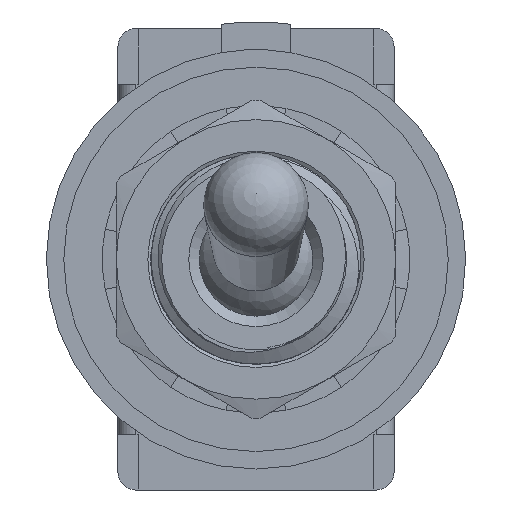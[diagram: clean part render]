
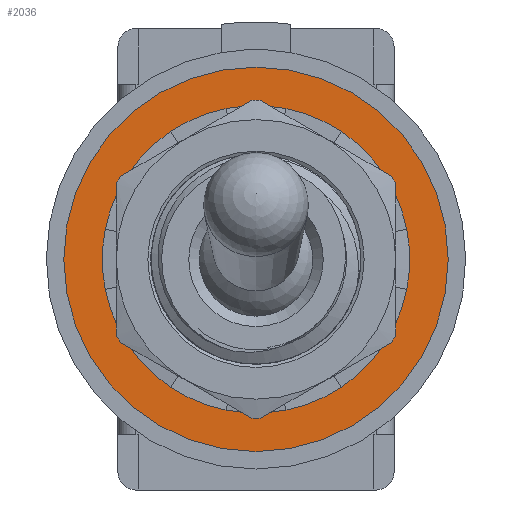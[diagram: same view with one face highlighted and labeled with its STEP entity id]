
A CAD part, front view. The second image highlights one B-rep face of the part: STEP entity #2036.
In plain terms, the highlighted planar face has unit normal (0, -1, 0).
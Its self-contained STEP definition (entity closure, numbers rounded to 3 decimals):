
#2036=ADVANCED_FACE('',(#21283,#21285),#21287,.T.);
#21283=FACE_BOUND('',#21284,.T.);
#21284=EDGE_LOOP('',(#38796));
#21285=FACE_BOUND('',#21286,.T.);
#21286=EDGE_LOOP('',(#38797,#38798,#38799,#38800,#38801,#38802,#38803,#38804,#38805,
#38806,#38807,#38808,#38809,#38810,#38811,#38812));
#21287=PLANE('',#21288);
#21288=AXIS2_PLACEMENT_3D('',#21289,#21290,#21291);
#21289=CARTESIAN_POINT('',(0.,-2.9,0.));
#21290=DIRECTION('',(0.,-1.,0.));
#21291=DIRECTION('',(0.,0.,-1.));
#38796=ORIENTED_EDGE('',*,*,#45188,.F.);
#38797=ORIENTED_EDGE('',*,*,#45189,.T.);
#38798=ORIENTED_EDGE('',*,*,#45166,.T.);
#38799=ORIENTED_EDGE('',*,*,#45190,.T.);
#38800=ORIENTED_EDGE('',*,*,#45169,.T.);
#38801=ORIENTED_EDGE('',*,*,#45191,.T.);
#38802=ORIENTED_EDGE('',*,*,#45172,.T.);
#38803=ORIENTED_EDGE('',*,*,#45192,.T.);
#38804=ORIENTED_EDGE('',*,*,#45175,.T.);
#38805=ORIENTED_EDGE('',*,*,#45193,.T.);
#38806=ORIENTED_EDGE('',*,*,#45178,.T.);
#38807=ORIENTED_EDGE('',*,*,#45194,.T.);
#38808=ORIENTED_EDGE('',*,*,#45181,.T.);
#38809=ORIENTED_EDGE('',*,*,#45195,.T.);
#38810=ORIENTED_EDGE('',*,*,#45184,.T.);
#38811=ORIENTED_EDGE('',*,*,#45196,.T.);
#38812=ORIENTED_EDGE('',*,*,#45187,.T.);
#45166=EDGE_CURVE('',#48832,#48834,#48836,.T.);
#45169=EDGE_CURVE('',#48837,#48839,#48841,.T.);
#45172=EDGE_CURVE('',#48842,#48844,#48846,.T.);
#45175=EDGE_CURVE('',#48847,#48849,#48851,.T.);
#45178=EDGE_CURVE('',#48852,#48854,#48856,.T.);
#45181=EDGE_CURVE('',#48857,#48859,#48861,.T.);
#45184=EDGE_CURVE('',#48862,#48864,#48866,.T.);
#45187=EDGE_CURVE('',#48867,#48869,#48871,.T.);
#45188=EDGE_CURVE('',#48872,#48872,#48873,.T.);
#45189=EDGE_CURVE('',#48869,#48832,#48874,.T.);
#45190=EDGE_CURVE('',#48834,#48837,#48875,.T.);
#45191=EDGE_CURVE('',#48839,#48842,#48876,.T.);
#45192=EDGE_CURVE('',#48844,#48847,#48877,.T.);
#45193=EDGE_CURVE('',#48849,#48852,#48878,.T.);
#45194=EDGE_CURVE('',#48854,#48857,#48879,.T.);
#45195=EDGE_CURVE('',#48859,#48862,#48880,.T.);
#45196=EDGE_CURVE('',#48864,#48867,#48881,.T.);
#48832=VERTEX_POINT('',#60323);
#48834=VERTEX_POINT('',#60327);
#48836=CIRCLE('',#60331,4.4);
#48837=VERTEX_POINT('',#60335);
#48839=VERTEX_POINT('',#60339);
#48841=CIRCLE('',#60343,4.4);
#48842=VERTEX_POINT('',#60347);
#48844=VERTEX_POINT('',#60351);
#48846=CIRCLE('',#60355,4.4);
#48847=VERTEX_POINT('',#60359);
#48849=VERTEX_POINT('',#60363);
#48851=CIRCLE('',#60367,4.4);
#48852=VERTEX_POINT('',#60371);
#48854=VERTEX_POINT('',#60375);
#48856=CIRCLE('',#60379,4.4);
#48857=VERTEX_POINT('',#60383);
#48859=VERTEX_POINT('',#60387);
#48861=CIRCLE('',#60391,4.4);
#48862=VERTEX_POINT('',#60395);
#48864=VERTEX_POINT('',#60399);
#48866=CIRCLE('',#60403,4.4);
#48867=VERTEX_POINT('',#60407);
#48869=VERTEX_POINT('',#60411);
#48871=CIRCLE('',#60415,4.4);
#48872=VERTEX_POINT('',#60419);
#48873=CIRCLE('',#60420,5.5);
#48874=CIRCLE('',#60424,4.4);
#48875=CIRCLE('',#60428,4.4);
#48876=CIRCLE('',#60432,4.4);
#48877=CIRCLE('',#60436,4.4);
#48878=CIRCLE('',#60440,4.4);
#48879=CIRCLE('',#60444,4.4);
#48880=CIRCLE('',#60448,4.4);
#48881=CIRCLE('',#60452,4.4);
#60323=CARTESIAN_POINT('',(2.445,-2.9,3.658));
#60327=CARTESIAN_POINT('',(3.658,-2.9,2.445));
#60331=AXIS2_PLACEMENT_3D('',#60332,#60333,#60334);
#60332=CARTESIAN_POINT('',(0.,-2.9,0.));
#60333=DIRECTION('',(0.,1.,0.));
#60334=DIRECTION('',(0.556,0.,0.831));
#60335=CARTESIAN_POINT('',(4.315,-2.9,0.858));
#60339=CARTESIAN_POINT('',(4.315,-2.9,-0.858));
#60343=AXIS2_PLACEMENT_3D('',#60344,#60345,#60346);
#60344=CARTESIAN_POINT('',(0.,-2.9,0.));
#60345=DIRECTION('',(0.,1.,0.));
#60346=DIRECTION('',(0.981,0.,0.195));
#60347=CARTESIAN_POINT('',(3.658,-2.9,-2.445));
#60351=CARTESIAN_POINT('',(2.445,-2.9,-3.658));
#60355=AXIS2_PLACEMENT_3D('',#60356,#60357,#60358);
#60356=CARTESIAN_POINT('',(0.,-2.9,0.));
#60357=DIRECTION('',(0.,1.,0.));
#60358=DIRECTION('',(0.831,0.,-0.556));
#60359=CARTESIAN_POINT('',(0.858,-2.9,-4.315));
#60363=CARTESIAN_POINT('',(-0.858,-2.9,-4.315));
#60367=AXIS2_PLACEMENT_3D('',#60368,#60369,#60370);
#60368=CARTESIAN_POINT('',(0.,-2.9,0.));
#60369=DIRECTION('',(0.,1.,0.));
#60370=DIRECTION('',(0.195,0.,-0.981));
#60371=CARTESIAN_POINT('',(-2.445,-2.9,-3.658));
#60375=CARTESIAN_POINT('',(-3.658,-2.9,-2.445));
#60379=AXIS2_PLACEMENT_3D('',#60380,#60381,#60382);
#60380=CARTESIAN_POINT('',(0.,-2.9,0.));
#60381=DIRECTION('',(0.,1.,0.));
#60382=DIRECTION('',(-0.556,0.,-0.831));
#60383=CARTESIAN_POINT('',(-4.315,-2.9,-0.858));
#60387=CARTESIAN_POINT('',(-4.315,-2.9,0.858));
#60391=AXIS2_PLACEMENT_3D('',#60392,#60393,#60394);
#60392=CARTESIAN_POINT('',(0.,-2.9,0.));
#60393=DIRECTION('',(0.,1.,0.));
#60394=DIRECTION('',(-0.981,0.,-0.195));
#60395=CARTESIAN_POINT('',(-3.658,-2.9,2.445));
#60399=CARTESIAN_POINT('',(-2.445,-2.9,3.658));
#60403=AXIS2_PLACEMENT_3D('',#60404,#60405,#60406);
#60404=CARTESIAN_POINT('',(0.,-2.9,0.));
#60405=DIRECTION('',(0.,1.,0.));
#60406=DIRECTION('',(-0.831,0.,0.556));
#60407=CARTESIAN_POINT('',(-0.858,-2.9,4.315));
#60411=CARTESIAN_POINT('',(0.858,-2.9,4.315));
#60415=AXIS2_PLACEMENT_3D('',#60416,#60417,#60418);
#60416=CARTESIAN_POINT('',(0.,-2.9,0.));
#60417=DIRECTION('',(0.,1.,0.));
#60418=DIRECTION('',(-0.195,0.,0.981));
#60419=CARTESIAN_POINT('',(0.,-2.9,-5.5));
#60420=AXIS2_PLACEMENT_3D('',#60421,#60422,#60423);
#60421=CARTESIAN_POINT('',(0.,-2.9,0.));
#60422=DIRECTION('',(0.,1.,0.));
#60423=DIRECTION('',(0.,0.,-1.));
#60424=AXIS2_PLACEMENT_3D('',#60425,#60426,#60427);
#60425=CARTESIAN_POINT('',(0.,-2.9,0.));
#60426=DIRECTION('',(0.,1.,0.));
#60427=DIRECTION('',(0.195,0.,0.981));
#60428=AXIS2_PLACEMENT_3D('',#60429,#60430,#60431);
#60429=CARTESIAN_POINT('',(0.,-2.9,0.));
#60430=DIRECTION('',(0.,1.,0.));
#60431=DIRECTION('',(0.831,0.,0.556));
#60432=AXIS2_PLACEMENT_3D('',#60433,#60434,#60435);
#60433=CARTESIAN_POINT('',(0.,-2.9,0.));
#60434=DIRECTION('',(0.,1.,0.));
#60435=DIRECTION('',(0.981,0.,-0.195));
#60436=AXIS2_PLACEMENT_3D('',#60437,#60438,#60439);
#60437=CARTESIAN_POINT('',(0.,-2.9,0.));
#60438=DIRECTION('',(0.,1.,0.));
#60439=DIRECTION('',(0.556,0.,-0.831));
#60440=AXIS2_PLACEMENT_3D('',#60441,#60442,#60443);
#60441=CARTESIAN_POINT('',(0.,-2.9,0.));
#60442=DIRECTION('',(0.,1.,0.));
#60443=DIRECTION('',(-0.195,0.,-0.981));
#60444=AXIS2_PLACEMENT_3D('',#60445,#60446,#60447);
#60445=CARTESIAN_POINT('',(0.,-2.9,0.));
#60446=DIRECTION('',(0.,1.,0.));
#60447=DIRECTION('',(-0.831,0.,-0.556));
#60448=AXIS2_PLACEMENT_3D('',#60449,#60450,#60451);
#60449=CARTESIAN_POINT('',(0.,-2.9,0.));
#60450=DIRECTION('',(0.,1.,0.));
#60451=DIRECTION('',(-0.981,0.,0.195));
#60452=AXIS2_PLACEMENT_3D('',#60453,#60454,#60455);
#60453=CARTESIAN_POINT('',(0.,-2.9,0.));
#60454=DIRECTION('',(0.,1.,0.));
#60455=DIRECTION('',(-0.556,0.,0.831));
